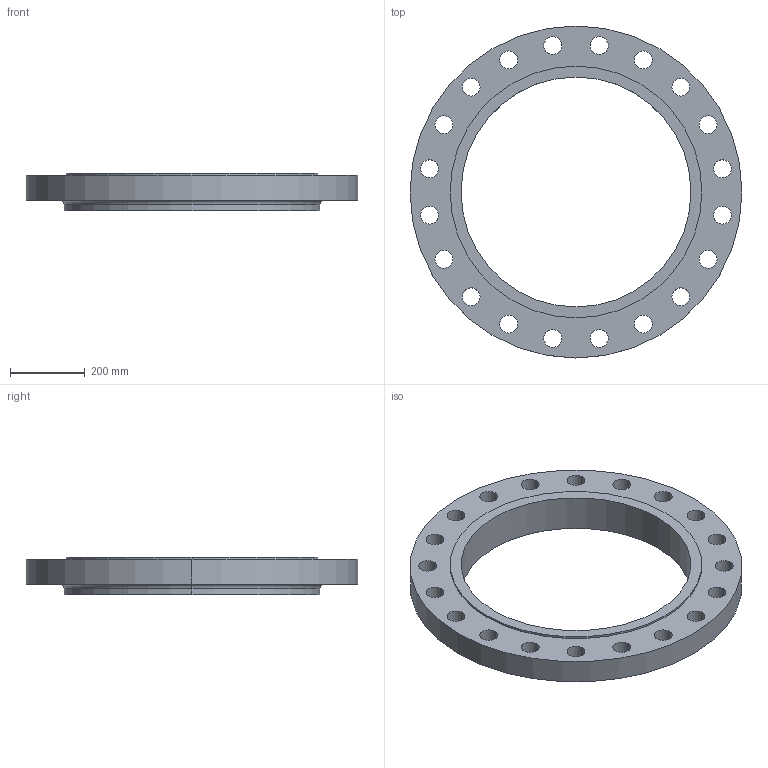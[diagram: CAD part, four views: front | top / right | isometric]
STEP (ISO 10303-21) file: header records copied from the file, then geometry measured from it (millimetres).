
FILE_DESCRIPTION (( 'STEP AP214' ), '1' );
FILE_NAME ('PN40 DN600 Type 12 - Type E Face.STEP', '2018-12-28T23:03:41', ( '' ), ( '' ), 'SwSTEP 2.0', 'SolidWorks 2019', '' );
FILE_SCHEMA (( 'AUTOMOTIVE_DESIGN' ));
Length unit declared in the file: millimetre
Products named in the file (1): PN40 DN600 Type 12 - Type E Face
Bounding box: 890 x 890 x 100 mm (x, y, z)
Volume: 21497282.4 mm3; surface area: 1215974 mm2
Topology: 1 solids, 1 shells, 54 faces, 148 edges, 98 vertices
Faces by surface type: cylinder 48, plane 4, torus 2
Entity records: 1894 total; most frequent: DIRECTION 358, CARTESIAN_POINT 301, ORIENTED_EDGE 296, AXIS2_PLACEMENT_3D 155, EDGE_CURVE 148, CIRCLE 100, VERTEX_POINT 98, EDGE_LOOP 98
